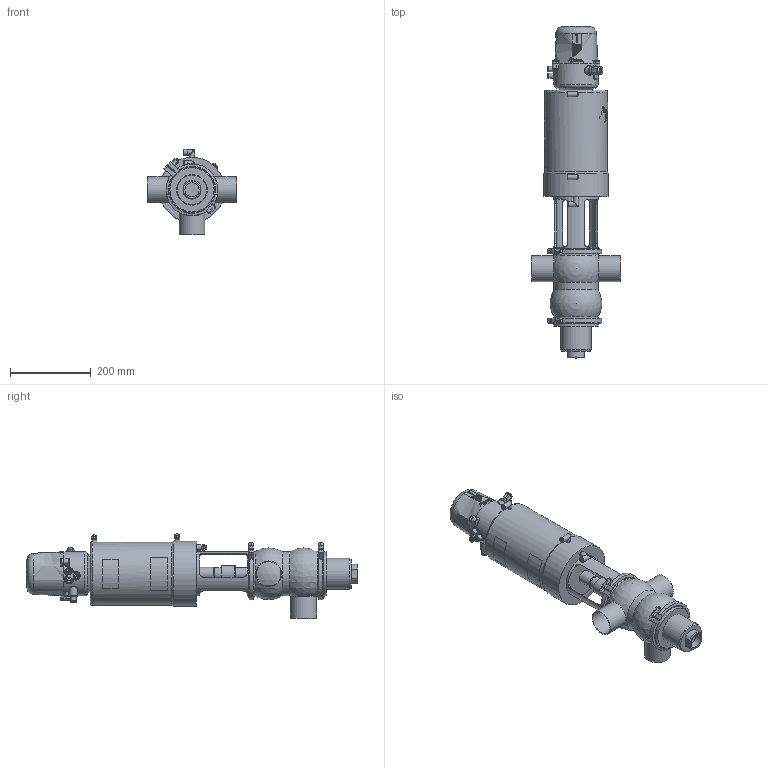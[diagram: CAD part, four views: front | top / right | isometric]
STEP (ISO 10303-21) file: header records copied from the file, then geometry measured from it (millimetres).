
FILE_DESCRIPTION (( 'STEP AP214' ), '1' );
FILE_NAME ('INNOVA P AB-90 W OD 2½ & C-TOP S_10.250.16.0011.STEP', '2024-08-09T12:28:08', ( '' ), ( '' ), 'SwSTEP 2.0', 'SolidWorks 2023', '' );
FILE_SCHEMA (( 'AUTOMOTIVE_DESIGN' ));
Length unit declared in the file: millimetre
Products named in the file (7): 10.250.15.0003_DN 2½"; INNOVA P AB-90 W OD 2½ & C-TOP S_10.250.16.0011; 10.240.15.0001_DN 065; 10.426.15.0001_C-TOP S - 3 EV; 10.251.15.0003_OD 2½"; 10.250.15.0001_OD 2½"; 10.250.15.0002_Type P T2
Assembly tree (7 placements, depth 2):
  INNOVA P AB-90 W OD 2½ & C-TOP S_10.250.16.0011
    10.250.15.0001_OD 2½"
    10.250.15.0002_Type P T2
    10.426.15.0001_C-TOP S - 3 EV
    10.251.15.0003_OD 2½"
    10.240.15.0001_DN 065  x2
    10.250.15.0003_DN 2½"
Bounding box: 220 x 821.8 x 209 mm (x, y, z)
Volume: 9334391.3 mm3; surface area: 587446.1 mm2
Topology: 7 solids, 7 shells, 1206 faces, 2901 edges, 1930 vertices
Faces by surface type: plane 413, cylinder 385, cone 204, bspline 162, torus 33, sphere 9
Full cylindrical faces by diameter (mm): 0.371 x17, 0.512 x16, 0.658 x16, 0.795 x16, 0.94 x15, 1.098 x15, 1.241 x13, 1.382 x13, 1.523 x11, 1.669 x10, 2.201 x1, 4.2 x2, 5 x1, 5.5 x2, 6 x4, 6.15 x3, 8 x5, 10 x1, 10.5 x3, 11 x4, 12.5 x9, 13 x6, 13.5 x2, 17 x3, 20 x2, 22 x2, 30.5 x2, 32 x1, 35 x1, 41 x1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
Entity records: 60065 total; most frequent: CARTESIAN_POINT 28664, ORIENTED_EDGE 4604, DIRECTION 3761, EDGE_CURVE 2302, VERTEX_POINT 1644, EDGE_LOOP 1632, AXIS2_PLACEMENT_3D 1550, FACE_OUTER_BOUND 1377
